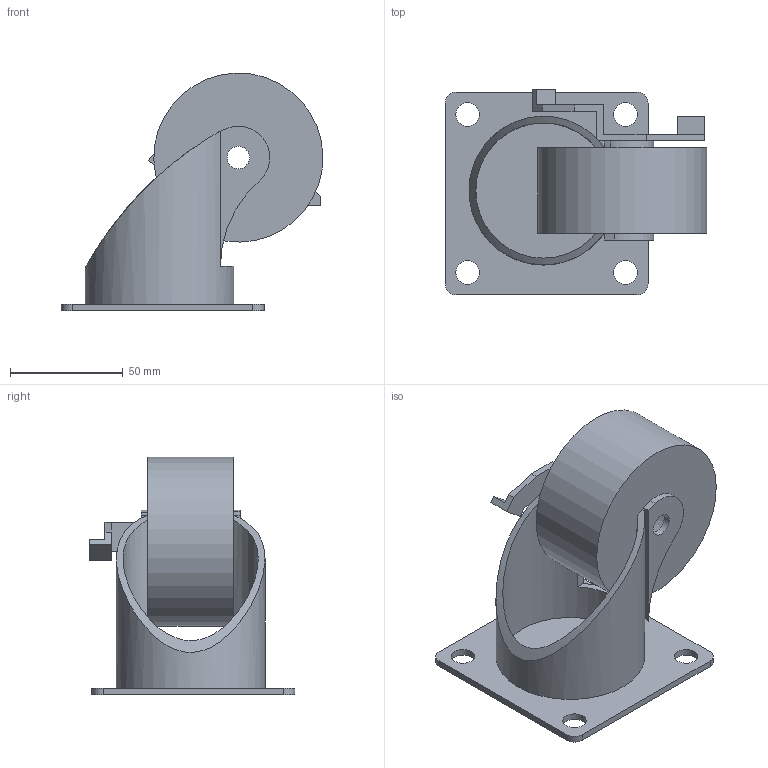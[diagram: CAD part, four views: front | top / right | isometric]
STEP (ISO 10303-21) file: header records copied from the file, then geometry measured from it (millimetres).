
FILE_DESCRIPTION((''),'2;1');
FILE_NAME('E:\catalogue and flyer\Profile catalogue 2015\Accessories- FM & wheel\foot mout & wheel stp file\ACC-JMS75-HP.stp','2016-04-08T10:53:27',('h029'),(''),'Autodesk Inventor 11','Autodesk Inventor 11','');
FILE_SCHEMA(('AUTOMOTIVE_DESIGN { 1 0 10303 214 1 1 1 1 }'));
Length unit declared in the file: millimetre
Products named in the file (5): JMS75; plate; Part3; wheel; wheel brake
Assembly tree (4 placements, depth 2):
  JMS75
    plate
    Part3
    wheel
    wheel brake
Bounding box: 116.1 x 91.24 x 105.49 mm (x, y, z)
Volume: 203918.1 mm3; surface area: 61451.9 mm2
Topology: 6 solids, 6 shells, 64 faces, 167 edges, 110 vertices
Faces by surface type: plane 44, cylinder 13, bspline 7
Full cylindrical faces by diameter (mm): 25 x1, 60 x1, 66 x1, 75 x1
Entity records: 2264 total; most frequent: CARTESIAN_POINT 632, DIRECTION 315, ORIENTED_EDGE 294, EDGE_CURVE 147, AXIS2_PLACEMENT_3D 106, VECTOR 103, LINE 103, VERTEX_POINT 101
